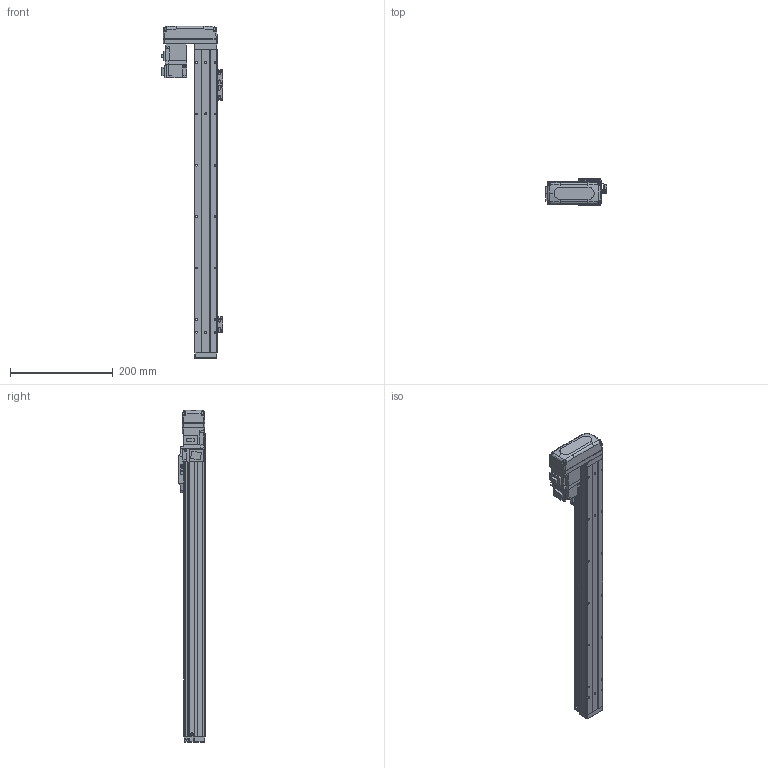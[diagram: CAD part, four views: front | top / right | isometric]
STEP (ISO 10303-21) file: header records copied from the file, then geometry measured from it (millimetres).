
FILE_DESCRIPTION (( 'STEP AP203' ), '1' );
FILE_NAME ('BTH40-450-BR-M05-C4.step', '2021-12-16T00:21:41', ( '微软用户' ), ( '微软中国' ), 'SwSTEP 2.0', 'SolidWorks 2020', '' );
FILE_SCHEMA (( 'CONFIG_CONTROL_DESIGN' ));
Length unit declared in the file: millimetre
Products named in the file (19): BTH40-027-1; BTH50-028; BTH40-004; BTH50-026; BTH50-023; BTH40-450-BR-M05-C4; BTH40-001-50_BTH40-001-450; BTH50-024; BTH40-003; GBT 70.1-M3℅6; BTH40-013; BTH40-006; GBT96.1-2002 3×0.8; HG-KR13; BTH-M3X5X6; BTH40-022; GBT 70.3-M3℅6; GBT70.1-2000 M3×16; GBT 70.1-M2.5×6
Assembly tree (47 placements, depth 2):
  BTH40-450-BR-M05-C4
    BTH40-001-50_BTH40-001-450
    BTH40-003
    BTH40-006
    BTH-M3X5X6  x8
    GBT70.1-2000 M3×16  x4
    BTH50-028  x2
    BTH50-023  x3
    BTH50-024  x3
    GBT 70.1-M3℅6  x6
    GBT96.1-2002 3×0.8  x6
    BTH40-022
    GBT 70.1-M2.5×6  x2
    BTH40-004
    BTH40-013
    HG-KR13
    GBT 70.3-M3℅6  x4
    BTH40-027-1
    BTH50-026
Bounding box: 120 x 52 x 646 mm (x, y, z)
Volume: 1204242.1 mm3; surface area: 216821 mm2
Topology: 49 solids, 49 shells, 1983 faces, 4659 edges, 2866 vertices
Faces by surface type: plane 1052, cylinder 495, cone 270, torus 128, bspline 34, sphere 4
Entity records: 39691 total; most frequent: CARTESIAN_POINT 7594, DIRECTION 6224, ORIENTED_EDGE 5964, EDGE_CURVE 2982, AXIS2_PLACEMENT_3D 2131, VECTOR 1962, LINE 1962, VERTEX_POINT 1853
